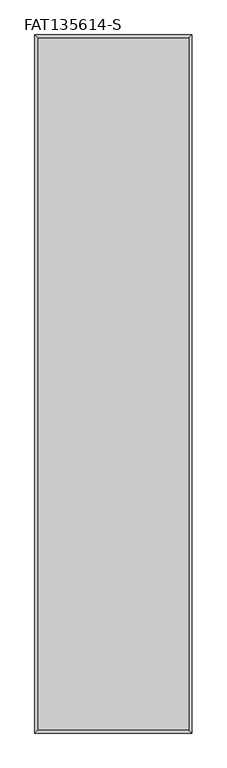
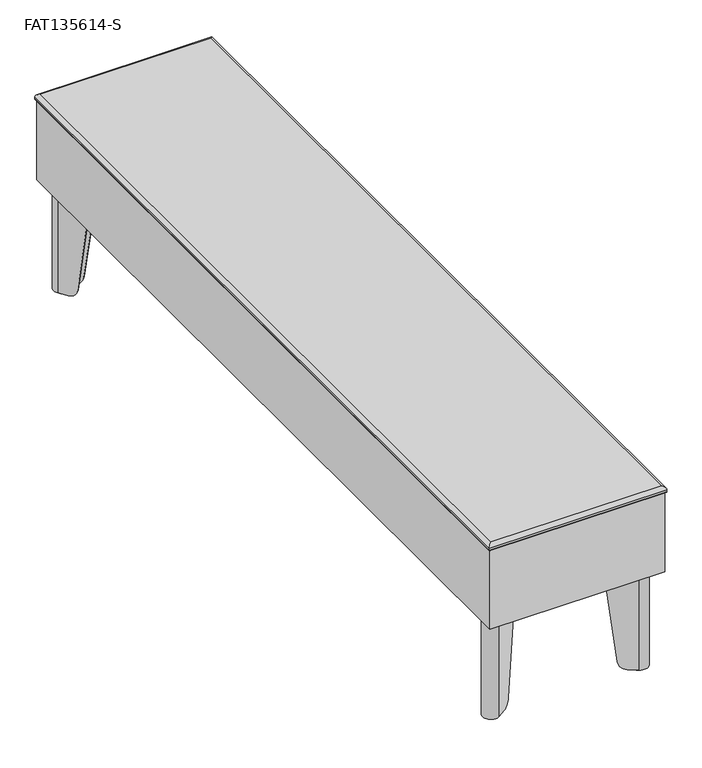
"""IFC4 building model written with IfcOpenShell, lengths in millimetres: furniture geometry, Stance_HC-Flora-Table_Straight : FAT135614-S."""

import ifcopenshell
import ifcopenshell.guid

model = None  # the IFC model being written
_history = None  # IfcOwnerHistory: only IFC2X3 demands one
_inside = {}  # id of a spatial element -> (the spatial element, [elements in it])
_under = {}  # id of a project, library or spatial element -> (it, [spatial elements below it])
_declared = {}  # id of a project -> (the project, [libraries it declares])
_typed = {}  # id of a type object -> (the type object, [elements of that type])
_made_of = {}  # id of a material, layer set ... -> (it, [elements and type objects made of it])


def new_model(schema):
    """Start an empty IFC model of exactly this schema.

    Asked for "IFC4X3", IfcOpenShell would pick the latest addendum, in which some entities
    have other attributes; the version numbers below select the first issue.
    IFC2X3 requires an IfcOwnerHistory on every rooted entity: one is made here for all.
    """
    global model, _history
    if schema == "IFC4X3":
        model = ifcopenshell.file(schema_version=(4, 3, 0, 0))
    else:
        model = ifcopenshell.file(schema=schema)
    _inside.clear()
    _under.clear()
    _declared.clear()
    _typed.clear()
    _made_of.clear()
    _history = None
    if model.schema == "IFC2X3":
        org = make("IfcOrganization", Name="unknown")
        user = make(
            "IfcPersonAndOrganization",
            ThePerson=make("IfcPerson", FamilyName="unknown"),
            TheOrganization=org,
        )
        app = make(
            "IfcApplication",
            ApplicationDeveloper=org,
            Version="unknown",
            ApplicationFullName="unknown",
            ApplicationIdentifier="unknown",
        )
        _history = make(
            "IfcOwnerHistory",
            OwningUser=user,
            OwningApplication=app,
            ChangeAction="ADDED",
            CreationDate=0,
        )
    return model


def make(cls, **values):
    """One entity of the class cls with the attributes given. An attribute that is None is left unset."""
    return model.create_entity(
        cls, **{name: value for name, value in values.items() if value is not None}
    )


def rooted(cls, **values):
    """An entity with a GlobalId (a new one), such as an element, a storey or a relation."""
    return make(cls, GlobalId=ifcopenshell.guid.new(), OwnerHistory=_history, **values)


def si_unit(unit_type, name, prefix=None):
    """IfcSIUnit, for example si_unit("LENGTHUNIT", "METRE", prefix="MILLI")."""
    return make("IfcSIUnit", UnitType=unit_type, Prefix=prefix, Name=name)


def assignment(units):
    """IfcUnitAssignment: the units of a project."""
    return None if units is None else make("IfcUnitAssignment", Units=units)


def point(xyz):
    """IfcCartesianPoint."""
    return None if xyz is None else make("IfcCartesianPoint", Coordinates=xyz)


def direction(xyz):
    """IfcDirection."""
    return None if xyz is None else make("IfcDirection", DirectionRatios=xyz)


def frame(location, z_axis=None, x_axis=None):
    """IfcAxis2Placement3D, a coordinate frame: its origin and axes. An axis left out is left unset."""
    return make(
        "IfcAxis2Placement3D",
        Location=point(location),
        Axis=direction(z_axis),
        RefDirection=direction(x_axis),
    )


def frame_2d(location, x_axis=None):
    """IfcAxis2Placement2D, a coordinate frame in the plane: its origin and x axis."""
    return make(
        "IfcAxis2Placement2D", Location=point(location), RefDirection=direction(x_axis)
    )


def origin():
    """The frame at (0, 0, 0) with its axes left unset."""
    return frame((0.0, 0.0, 0.0))


def origin_with_axes():
    """The frame at (0, 0, 0) with the z axis (0, 0, 1) and the x axis (1, 0, 0) written out."""
    return frame((0.0, 0.0, 0.0), z_axis=(0.0, 0.0, 1.0), x_axis=(1.0, 0.0, 0.0))


def place(relative_to, where):
    """IfcLocalPlacement: puts the frame where relative to a parent placement (None: the world)."""
    return make(
        "IfcLocalPlacement", PlacementRelTo=relative_to, RelativePlacement=where
    )


def context(
    kind, dimensions, precision=None, world=None, true_north=None, identifier=None
):
    """IfcGeometricRepresentationContext, for example the 3D "Model" context."""
    return make(
        "IfcGeometricRepresentationContext",
        ContextIdentifier=identifier,
        ContextType=kind,
        CoordinateSpaceDimension=dimensions,
        Precision=precision,
        WorldCoordinateSystem=world,
        TrueNorth=true_north,
    )


def project(units=None, contexts=None):
    """IfcProject with its units and contexts."""
    return rooted(
        "IfcProject",
        Name="project",
        RepresentationContexts=contexts,
        UnitsInContext=assignment(units),
    )


def spatial(cls, under=None, at=None, **own):
    """A site, building, storey or space (cls), placed at a placement, below another one or the project."""
    s = rooted(cls, ObjectPlacement=at, **own)
    if under is not None:
        _under.setdefault(under.id(), (under, []))[1].append(s)
    return s


def polyline(points):
    """IfcPolyline through the points."""
    return make("IfcPolyline", Points=[point(p) for p in points])


def circle_curve(where, radius):
    """IfcCircle in the frame where."""
    return make("IfcCircle", Position=where, Radius=radius)


def ellipse_curve(where, semi_axis1, semi_axis2):
    """IfcEllipse in the frame where."""
    return make(
        "IfcEllipse", Position=where, SemiAxis1=semi_axis1, SemiAxis2=semi_axis2
    )


def trimmed(basis, trim1, trim2, sense, master):
    """IfcTrimmedCurve: the piece of a basis curve between two trims."""
    return make(
        "IfcTrimmedCurve",
        BasisCurve=basis,
        Trim1=trim1,
        Trim2=trim2,
        SenseAgreement=sense,
        MasterRepresentation=master,
    )


def segment(curve, same_sense, transition):
    """IfcCompositeCurveSegment."""
    return make(
        "IfcCompositeCurveSegment",
        Transition=transition,
        SameSense=same_sense,
        ParentCurve=curve,
    )


def composite_curve(segments, self_intersect=None):
    """IfcCompositeCurve: segments joined end to end."""
    return make("IfcCompositeCurve", Segments=segments, SelfIntersect=self_intersect)


def outline(outer, holes=None, kind="AREA"):
    """IfcArbitraryClosedProfileDef: a profile drawn as a closed curve; with holes, ...WithVoids."""
    if holes is None:
        return make("IfcArbitraryClosedProfileDef", ProfileType=kind, OuterCurve=outer)
    return make(
        "IfcArbitraryProfileDefWithVoids",
        ProfileType=kind,
        OuterCurve=outer,
        InnerCurves=holes,
    )


def extrude(swept, where, along, depth):
    """IfcExtrudedAreaSolid: the profile swept, set in the frame where, extruded along a direction by depth."""
    return make(
        "IfcExtrudedAreaSolid",
        SweptArea=swept,
        Position=where,
        ExtrudedDirection=direction(along),
        Depth=depth,
    )


def shape(context_of_items, identifier, shape_type, items):
    """IfcShapeRepresentation: the items that make up one representation, for example the "Body"."""
    return make(
        "IfcShapeRepresentation",
        ContextOfItems=context_of_items,
        RepresentationIdentifier=identifier,
        RepresentationType=shape_type,
        Items=items,
    )


def source(mapping_origin, context_of_items, identifier, shape_type, items):
    """IfcRepresentationMap: a shape defined once, which mapped items show again and again."""
    return make(
        "IfcRepresentationMap",
        MappingOrigin=mapping_origin,
        MappedRepresentation=shape(context_of_items, identifier, shape_type, items),
    )


def transform(
    local_origin,
    x_axis=None,
    y_axis=None,
    z_axis=None,
    scale=None,
    scale2=None,
    scale3=None,
    uniform=True,
):
    """IfcCartesianTransformationOperator3D, or its non-uniform kind. x_axis, y_axis, z_axis: its Axis1, 2, 3."""
    if uniform:
        return make(
            "IfcCartesianTransformationOperator3D",
            Axis1=direction(x_axis),
            Axis2=direction(y_axis),
            LocalOrigin=point(local_origin),
            Scale=scale,
            Axis3=direction(z_axis),
        )
    return make(
        "IfcCartesianTransformationOperator3DnonUniform",
        Axis1=direction(x_axis),
        Axis2=direction(y_axis),
        LocalOrigin=point(local_origin),
        Scale=scale,
        Axis3=direction(z_axis),
        Scale2=scale2,
        Scale3=scale3,
    )


def mapped(mapping_source, mapping_target):
    """IfcMappedItem: shows the shape of a source again, moved by a transform."""
    return make(
        "IfcMappedItem", MappingSource=mapping_source, MappingTarget=mapping_target
    )


def made_of(thing, what):
    """Note that an element or type object is made of a material, layer set ...; save() writes the relation."""
    if what is not None:
        _made_of.setdefault(what.id(), (what, []))[1].append(thing)
    return thing


def element(
    cls,
    number,
    at=None,
    inside=None,
    cuts=None,
    type_object=None,
    material=None,
    context=None,
    identifier="Body",
    shape_type=None,
    held_by="IfcProductDefinitionShape",
    body=None,
    shapes=None,
    **own,
):
    """One element of the class cls, such as IfcWall. Its Tag is "e" and its number.

    at: its placement. inside: the storey or other place that contains it. cuts: it is an
    opening in that element (IfcRelVoidsElement). A single representation is given by context,
    identifier, shape_type and body (its items); several are given by shapes. held_by: the class
    of the entity that holds the representations. save() writes the other relations.
    """
    e = rooted(cls, Tag="e%d" % number, ObjectPlacement=at, **own)
    if body is not None:
        shapes = [shape(context, identifier, shape_type, body)]
    if shapes is not None:
        e.Representation = make(held_by, Representations=shapes)
    if inside is not None:
        _inside.setdefault(inside.id(), (inside, []))[1].append(e)
    if cuts is not None:
        rooted(
            "IfcRelVoidsElement", RelatingBuildingElement=cuts, RelatedOpeningElement=e
        )
    if type_object is not None:
        _typed.setdefault(type_object.id(), (type_object, []))[1].append(e)
    return made_of(e, material)


def aggregate(whole, parts):
    """IfcRelAggregates: a whole, such as a stair, and the parts it consists of."""
    return rooted("IfcRelAggregates", RelatingObject=whole, RelatedObjects=parts)


def save(model, path):
    """Write the relations noted so far, then the file.

    IfcRelAggregates (storeys below a building ...), IfcRelContainedInSpatialStructure (elements
    in a storey), IfcRelDefinesByType, IfcRelAssociatesMaterial and IfcRelDeclares: one each for
    every whole, place, type object, material and project.
    """
    for whole, parts in _under.values():
        aggregate(whole, parts)
    for where, things in _inside.values():
        rooted(
            "IfcRelContainedInSpatialStructure",
            RelatedElements=things,
            RelatingStructure=where,
        )
    for kind, things in _typed.values():
        rooted("IfcRelDefinesByType", RelatedObjects=things, RelatingType=kind)
    for what, things in _made_of.values():
        rooted("IfcRelAssociatesMaterial", RelatedObjects=things, RelatingMaterial=what)
    for by, libraries in _declared.values():
        rooted("IfcRelDeclares", RelatingContext=by, RelatedDefinitions=libraries)
    model.write(path)


def plane_surface(at):
    """IfcPlane: the flat surface through the origin of the frame at, square to its z axis."""
    return make("IfcPlane", Position=at)


def cylinder_surface(at, radius):
    """IfcCylindricalSurface: all points at the distance radius from the z axis of the frame at."""
    return make("IfcCylindricalSurface", Position=at, Radius=radius)


def revolved_surface(curve, axis_point, axis_direction):
    """IfcSurfaceOfRevolution: the curve turned about the line through axis_point along axis_direction."""
    return make(
        "IfcSurfaceOfRevolution",
        SweptCurve=make("IfcArbitraryOpenProfileDef", ProfileType="CURVE", Curve=curve),
        AxisPosition=make("IfcAxis1Placement", Location=point(axis_point), Axis=direction(axis_direction)),
    )


def advanced_brep(points, edges, surfaces, faces):
    """IfcAdvancedBrep: a solid bounded by faces that lie on surfaces and meet in shared edges.

    An edge is (start, end): straight between two places in points (the first is 0);
    or (start, end, curve); or (start, end, curve, False) where it runs against its curve.
    A face is (place in surfaces, loops), or (place, loops, False) where it looks against
    its surface's normal. A loop lists edges by number (the first is 1), with a minus sign
    where the edge is run from its end to its start. The first loop is the outer one.
    """
    corners = [point(p) for p in points]
    vertices = [make("IfcVertexPoint", VertexGeometry=c) for c in corners]
    made = []
    for start, end, *more in edges:
        made.append(
            make(
                "IfcEdgeCurve",
                EdgeStart=vertices[start],
                EdgeEnd=vertices[end],
                EdgeGeometry=more[0] if more else make("IfcPolyline", Points=[corners[start], corners[end]]),
                SameSense=more[1] if len(more) > 1 else True,
            )
        )
    hull = []
    for where, loops, *sense in faces:
        bounds = []
        for j, loop in enumerate(loops):
            ring = [make("IfcOrientedEdge", EdgeElement=made[abs(k) - 1], Orientation=k > 0) for k in loop]
            bounds.append(
                make(
                    "IfcFaceOuterBound" if j == 0 else "IfcFaceBound",
                    Bound=make("IfcEdgeLoop", EdgeList=ring),
                    Orientation=True,
                )
            )
        hull.append(make("IfcAdvancedFace", Bounds=bounds, FaceSurface=surfaces[where], SameSense=sense[0] if sense else True))
    return make("IfcAdvancedBrep", Outer=make("IfcClosedShell", CfsFaces=hull))


def fat135614_s_2103d5af(model_context):
    return source(origin(), model_context, "Body", "SolidModel", [
        advanced_brep(
        [(274.3401042, -102.8613619, 193.6877233), (306.2642107, -57.26919, 193.6877233), (285.6391871, -36.6441664, 193.6877233), (240.0470178, -68.568271, 193.6877233), (241.8906556, -71.2012484, 193.6877233), (287.4828248, -39.2771437, 193.6877233), (303.6312333, -55.4255523, 193.6877233), (271.7071268, -101.0177242, 193.6877233), (274.3401042, -102.8613619, 189.1419595), (303.6312333, -55.4255523, 3.1876992), (293.5105238, -69.8793673, 3.1876992), (284.3334277, -82.9855678, 17.1280233), (287.4828248, -39.2771437, 3.1876992), (259.9228092, -58.5749494, 17.1280233), (273.0290098, -49.3978533, 3.1876992), (240.0470178, -68.568271, 189.1419334), (285.6391871, -36.6441664, 3.1876992), (270.7211121, -47.0899556, 3.1876992), (257.6149115, -56.2670517, 17.1280233), (306.2642107, -57.26919, 3.1876992), (286.6413254, -85.2934656, 17.1280233), (295.8184215, -72.187265, 3.1876992)],
        [
            (0, 1),
            (1, 2, circle_curve(frame((294.1333442, -48.7750329, 193.6877233), z_axis=(0.0, 0.0, 1.0), x_axis=(-1.0, 0.0, 0.0)), 14.8090724)),
            (2, 3),
            (3, 4),
            (4, 5),
            (5, 6, circle_curve(frame((294.1333442, -48.7750329, 193.6877233), z_axis=(0.0, 0.0, -1.0), x_axis=(-1.0, 0.0, 0.0)), 11.5947965)),
            (6, 7),
            (7, 0),
            (7, 8),
            (8, 0),
            (6, 9),
            (9, 10),
            (10, 11, ellipse_curve(frame((293.5105238, -69.8793673, 19.0626992), z_axis=(-0.8191509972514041, 0.5735779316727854, 0.0), x_axis=(-0.5735779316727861, -0.8191509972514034, 0.0)), 16.1198923, 15.875)),
            (11, 7),
            (5, 12),
            (12, 9, circle_curve(frame((294.1333442, -48.7750329, 3.1876992), z_axis=(0.0, 0.0, -1.0), x_axis=(-1.0, 0.0, 0.0)), 11.5947965)),
            (4, 13),
            (13, 14, ellipse_curve(frame((273.0290098, -49.3978533, 19.0626992), z_axis=(0.5735779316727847, -0.8191509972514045, 0.0), x_axis=(0.8191509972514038, 0.5735779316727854, 0.0)), 16.1198923, 15.875)),
            (14, 12),
            (3, 15),
            (15, 4),
            (2, 16),
            (16, 17),
            (17, 18, ellipse_curve(frame((270.7211121, -47.0899556, 19.0626992), z_axis=(-0.5735779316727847, 0.8191509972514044, 0.0), x_axis=(0.8191509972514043, 0.573577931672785, 0.0)), 16.1198923, 15.875)),
            (18, 15),
            (1, 19),
            (19, 16, circle_curve(frame((294.1333442, -48.7750329, 3.1876992), z_axis=(0.0, 0.0, 1.0), x_axis=(-1.0, 0.0, 0.0)), 14.8090724)),
            (8, 20),
            (20, 21, ellipse_curve(frame((295.8184215, -72.187265, 19.0626992), z_axis=(0.8191509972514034, -0.5735779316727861, 0.0), x_axis=(-0.5735779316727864, -0.8191509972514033, 0.0)), 16.1198923, 15.875)),
            (21, 19),
            (18, 13),
            (11, 20),
            (21, 10),
            (14, 17),
        ],
        [
            plane_surface(frame((271.7071268, -101.0177242, 193.6877233), z_axis=(0.0, 0.0, 1.0000000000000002), x_axis=(-0.8191509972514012, 0.5735779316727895, 0.0))),
            plane_surface(frame((274.3401042, -102.8613619, 193.6877233), z_axis=(-0.5735779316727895, -0.8191509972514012, 0.0), x_axis=(0.0, 0.0, -1.0))),
            plane_surface(frame((271.7071268, -101.0177242, 193.6877233), z_axis=(-0.8191509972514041, 0.5735779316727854, 0.0), x_axis=(0.0, 0.0, -1.0))),
            revolved_surface(polyline([(282.53854770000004, -48.7750329, 3.1876992), (282.53854770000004, -48.7750329, 193.6877233)]), (294.1333442, -48.7750329, 0.0), (0.0, 0.0, -1.0)),
            plane_surface(frame((287.4828248, -39.2771437, 193.6877233), z_axis=(0.5735779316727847, -0.8191509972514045, 0.0), x_axis=(0.0, 0.0, -1.0))),
            plane_surface(frame((241.8906556, -71.2012484, 193.6877233), z_axis=(-0.8191509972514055, -0.5735779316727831, 0.0), x_axis=(0.0, 0.0, -1.0))),
            plane_surface(frame((240.0470178, -68.568271, 193.6877233), z_axis=(-0.5735779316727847, 0.8191509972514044, 0.0), x_axis=(0.0, 0.0, -1.0))),
            cylinder_surface(frame((294.1333442, -48.7750329, 0.0), z_axis=(0.0, 0.0, 1.0), x_axis=(-1.0, 0.0, 0.0)), 14.8090724),
            plane_surface(frame((306.2642107, -57.26919, 193.6877233), z_axis=(0.8191509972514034, -0.5735779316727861, 0.0), x_axis=(0.0, 0.0, -1.0))),
            plane_surface(frame((251.7311084, -50.3832485, 17.1280233), z_axis=(-0.7018361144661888, -0.7018361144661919, -0.12186934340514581), x_axis=(0.7071067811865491, -0.707106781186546, 0.0))),
            plane_surface(frame((284.2214639, -17.8928931, 3.1876992), z_axis=(0.0, 0.0, -1.0), x_axis=(0.707106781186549, -0.707106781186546, 0.0))),
            cylinder_surface(frame((303.6583998, -80.0272433, 19.0626992), z_axis=(0.7071067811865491, -0.707106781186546, 0.0), x_axis=(-0.707106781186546, -0.7071067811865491, 0.0)), 15.875),
        ],
        [
            (0, [[1, 2, 3, 4, 5, 6, 7, 8]]),
            (1, [[9, 10, -8]]),
            (2, [[11, 12, 13, 14, -7]]),
            (3, [[15, 16, -11, -6]]),
            (4, [[17, 18, 19, -15, -5]]),
            (5, [[20, 21, -4]]),
            (6, [[22, 23, 24, 25, -20, -3]]),
            (7, [[26, 27, -22, -2]]),
            (8, [[-10, 28, 29, 30, -26, -1]]),
            (9, [[-17, -21, -25, 31]]),
            (9, [[-28, -9, -14, 32]]),
            (10, [[-23, -27, -30, 33, -12, -16, -19, 34]]),
            (11, [[-13, -33, -29, -32]]),
            (11, [[-24, -34, -18, -31]]),
        ],
    ),
        extrude(outline(composite_curve([segment(trimmed(circle_curve(frame_2d((292.1, -50.8)), 11.1125), [point((303.2125, -50.8))], [point((280.9875, -50.8))], False, "CARTESIAN"), True, "CONTINUOUS"), segment(trimmed(circle_curve(frame_2d((292.1, -50.8)), 11.1125), [point((280.9875, -50.8))], [point((303.2125, -50.8))], False, "CARTESIAN"), True, "CONTINUOUS")], self_intersect=False)), origin_with_axes(), (0.0, 0.0, 1.0), 3.175),
        extrude(outline(composite_curve([segment(trimmed(circle_curve(frame_2d((295.4524523, -47.4559239)), 15.8749964), [point((294.3450687, -31.6195983))], [point((311.288778, -48.5633073))], False, "CARTESIAN"), True, "CONTINUOUS"), segment(polyline([(311.288778, -48.5633073), (304.2918062, -148.6247029), (274.4414324, -178.4750713), (190.4983323, -152.4100523), (164.4332978, -68.4669439), (194.2836699, -38.6165718), (294.3450687, -31.6195983)]), True, "CONTINUOUS")], self_intersect=False)), frame((0.0, 0.0, 193.6877233), z_axis=(0.0, 0.0, 1.0), x_axis=(1.0, 0.0, 0.0)), (0.0, 0.0, 1.0), 4.7751809),
        advanced_brep(
        [(274.3401042, -1344.9386381, 193.6877233), (271.7071268, -1346.7822758, 193.6877233), (303.6312333, -1392.3744477, 193.6877233), (287.4828248, -1408.5228563, 193.6877233), (241.8906556, -1376.5987516, 193.6877233), (240.0470178, -1379.231729, 193.6877233), (285.6391871, -1411.1558336, 193.6877233), (306.2642107, -1390.53081, 193.6877233), (274.3401042, -1344.9386381, 189.1419595), (284.3334277, -1364.8144322, 17.1280233), (293.5105238, -1377.9206327, 3.1876992), (303.6312333, -1392.3744477, 3.1876992), (287.4828248, -1408.5228563, 3.1876992), (273.0290098, -1398.4021467, 3.1876992), (259.9228092, -1389.2250506, 17.1280233), (240.0470178, -1379.231729, 189.1419334), (257.6149115, -1391.5329483, 17.1280233), (270.7211121, -1400.7100444, 3.1876992), (285.6391871, -1411.1558336, 3.1876992), (306.2642107, -1390.53081, 3.1876992), (295.8184215, -1375.612735, 3.1876992), (286.6413254, -1362.5065344, 17.1280233)],
        [
            (0, 1),
            (1, 2),
            (2, 3, circle_curve(frame((294.1333442, -1399.0249671, 193.6877233), z_axis=(0.0, 0.0, -1.0), x_axis=(-1.0, 0.0, 0.0)), 11.5947965)),
            (3, 4),
            (4, 5),
            (5, 6),
            (6, 7, circle_curve(frame((294.1333442, -1399.0249671, 193.6877233), z_axis=(0.0, 0.0, 1.0), x_axis=(-1.0, 0.0, 0.0)), 14.8090724)),
            (7, 0),
            (0, 8),
            (8, 1),
            (1, 9),
            (9, 10, ellipse_curve(frame((293.5105238, -1377.9206327, 19.0626992), z_axis=(-0.8191509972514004, -0.5735779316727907, 0.0), x_axis=(-0.5735779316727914, 0.8191509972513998, 0.0)), 16.1198923, 15.875)),
            (10, 11),
            (11, 2),
            (11, 12, circle_curve(frame((294.1333442, -1399.0249671, 3.1876992), z_axis=(0.0, 0.0, -1.0), x_axis=(-1.0, 0.0, 0.0)), 11.5947965)),
            (12, 3),
            (12, 13),
            (13, 14, ellipse_curve(frame((273.0290098, -1398.4021467, 19.0626992), z_axis=(0.5735779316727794, 0.8191509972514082, 0.0), x_axis=(0.8191509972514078, -0.5735779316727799, 0.0)), 16.1198923, 15.875)),
            (14, 4),
            (4, 15),
            (15, 5),
            (15, 16),
            (16, 17, ellipse_curve(frame((270.7211121, -1400.7100444, 19.0626992), z_axis=(-0.5735779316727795, -0.8191509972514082, 0.0), x_axis=(0.8191509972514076, -0.5735779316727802, 0.0)), 16.1198923, 15.875)),
            (17, 18),
            (18, 6),
            (18, 19, circle_curve(frame((294.1333442, -1399.0249671, 3.1876992), z_axis=(0.0, 0.0, 1.0), x_axis=(-1.0, 0.0, 0.0)), 14.8090724)),
            (19, 7),
            (19, 20),
            (20, 21, ellipse_curve(frame((295.8184215, -1375.612735, 19.0626992), z_axis=(0.8191509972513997, 0.5735779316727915, 0.0), x_axis=(-0.573577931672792, 0.8191509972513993, 0.0)), 16.1198923, 15.875)),
            (21, 8),
            (14, 16),
            (21, 9),
            (17, 13),
            (10, 20),
        ],
        [
            plane_surface(frame((271.7071268, -1346.7822758, 193.6877233), z_axis=(0.0, 0.0, 0.9999999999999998), x_axis=(-0.8191509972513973, -0.5735779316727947, 0.0))),
            plane_surface(frame((274.3401042, -1344.9386381, 193.6877233), z_axis=(-0.5735779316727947, 0.8191509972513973, 0.0), x_axis=(0.0, 0.0, -1.0))),
            plane_surface(frame((271.7071268, -1346.7822758, 193.6877233), z_axis=(-0.8191509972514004, -0.5735779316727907, 0.0), x_axis=(0.0, 0.0, -1.0))),
            revolved_surface(polyline([(282.53854770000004, -1399.0249671, 3.1876992), (282.53854770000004, -1399.0249671, 193.6877233)]), (294.1333442, -1399.0249671, 0.0), (0.0, 0.0, -1.0)),
            plane_surface(frame((287.4828248, -1408.5228563, 193.6877233), z_axis=(0.5735779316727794, 0.8191509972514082, 0.0), x_axis=(0.0, 0.0, -1.0))),
            plane_surface(frame((241.8906556, -1376.5987516, 193.6877233), z_axis=(-0.8191509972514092, 0.5735779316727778, 0.0), x_axis=(0.0, 0.0, -1.0))),
            plane_surface(frame((240.0470178, -1379.231729, 193.6877233), z_axis=(-0.5735779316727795, -0.8191509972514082, 0.0), x_axis=(0.0, 0.0, -1.0))),
            cylinder_surface(frame((294.1333442, -1399.0249671, 0.0), z_axis=(0.0, 0.0, 1.0), x_axis=(-1.0, 0.0, 0.0)), 14.8090724),
            plane_surface(frame((306.2642107, -1390.53081, 193.6877233), z_axis=(0.8191509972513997, 0.5735779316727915, 0.0), x_axis=(0.0, 0.0, -1.0))),
            plane_surface(frame((251.7311084, -1397.4167515, 17.1280233), z_axis=(-0.7018361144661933, 0.7018361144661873, -0.12186934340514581), x_axis=(0.7071067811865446, 0.7071067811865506, 0.0))),
            plane_surface(frame((284.2214639, -1429.9071069, 3.1876992), z_axis=(0.0, 0.0, -1.0), x_axis=(0.7071067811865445, 0.7071067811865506, 0.0))),
            cylinder_surface(frame((303.6583998, -1367.7727567, 19.0626992), z_axis=(0.7071067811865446, 0.7071067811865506, 0.0), x_axis=(-0.7071067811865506, 0.7071067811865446, 0.0)), 15.875),
        ],
        [
            (0, [[1, 2, 3, 4, 5, 6, 7, 8]]),
            (1, [[-1, 9, 10]]),
            (2, [[-2, 11, 12, 13, 14]]),
            (3, [[-3, -14, 15, 16]]),
            (4, [[-4, -16, 17, 18, 19]]),
            (5, [[-5, 20, 21]]),
            (6, [[-6, -21, 22, 23, 24, 25]]),
            (7, [[-7, -25, 26, 27]]),
            (8, [[-8, -27, 28, 29, 30, -9]]),
            (9, [[31, -22, -20, -19]]),
            (9, [[32, -11, -10, -30]]),
            (10, [[33, -17, -15, -13, 34, -28, -26, -24]]),
            (11, [[-31, -18, -33, -23]]),
            (11, [[-32, -29, -34, -12]]),
        ],
    ),
        extrude(outline(composite_curve([segment(trimmed(circle_curve(frame_2d((292.1, -1397.0)), 11.1125), [point((303.2125, -1397.0))], [point((280.9875, -1397.0))], False, "CARTESIAN"), True, "CONTINUOUS"), segment(trimmed(circle_curve(frame_2d((292.1, -1397.0)), 11.1125), [point((280.9875, -1397.0))], [point((303.2125, -1397.0))], False, "CARTESIAN"), True, "CONTINUOUS")], self_intersect=False)), origin_with_axes(), (0.0, 0.0, 1.0), 3.175),
        extrude(outline(composite_curve([segment(polyline([(294.3450687, -1416.1804017), (194.2836699, -1409.1834282), (164.4332978, -1379.3330561), (190.4983323, -1295.3899477), (274.4414324, -1269.3249287), (304.2918062, -1299.1752971), (311.288778, -1399.2366927)]), True, "CONTINUOUS"), segment(trimmed(circle_curve(frame_2d((295.4524523, -1400.3440761)), 15.8749964), [point((311.288778, -1399.2366927))], [point((294.3450687, -1416.1804017))], False, "CARTESIAN"), True, "CONTINUOUS")], self_intersect=False)), frame((0.0, 0.0, 193.6877233), z_axis=(0.0, 0.0, 1.0), x_axis=(1.0, 0.0, 0.0)), (0.0, 0.0, 1.0), 4.7751809),
        advanced_brep(
        [(43.1598958, -1344.9386381, 193.6877233), (11.2357893, -1390.53081, 193.6877233), (31.8608129, -1411.1558336, 193.6877233), (77.4529822, -1379.231729, 193.6877233), (75.6093444, -1376.5987516, 193.6877233), (30.0171752, -1408.5228563, 193.6877233), (13.8687667, -1392.3744477, 193.6877233), (45.7928732, -1346.7822758, 193.6877233), (43.1598958, -1344.9386381, 189.1419595), (13.8687667, -1392.3744477, 3.1876992), (23.9894762, -1377.9206327, 3.1876992), (33.1665723, -1364.8144322, 17.1280233), (30.0171752, -1408.5228563, 3.1876992), (57.5771908, -1389.2250506, 17.1280233), (44.4709902, -1398.4021467, 3.1876992), (77.4529822, -1379.231729, 189.1419334), (31.8608129, -1411.1558336, 3.1876992), (46.7788879, -1400.7100444, 3.1876992), (59.8850885, -1391.5329483, 17.1280233), (11.2357893, -1390.53081, 3.1876992), (30.8586746, -1362.5065344, 17.1280233), (21.6815785, -1375.612735, 3.1876992)],
        [
            (0, 1),
            (1, 2, circle_curve(frame((23.3666558, -1399.0249671, 193.6877233), z_axis=(0.0, 0.0, 1.0), x_axis=(1.0, 0.0, 0.0)), 14.8090724)),
            (2, 3),
            (3, 4),
            (4, 5),
            (5, 6, circle_curve(frame((23.3666558, -1399.0249671, 193.6877233), z_axis=(0.0, 0.0, -1.0), x_axis=(1.0, 0.0, 0.0)), 11.5947965)),
            (6, 7),
            (7, 0),
            (7, 8),
            (8, 0),
            (6, 9),
            (9, 10),
            (10, 11, ellipse_curve(frame((23.9894762, -1377.9206327, 19.0626992), z_axis=(0.8191509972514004, -0.5735779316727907, 0.0), x_axis=(0.5735779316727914, 0.8191509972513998, 0.0)), 16.1198923, 15.875)),
            (11, 7),
            (5, 12),
            (12, 9, circle_curve(frame((23.3666558, -1399.0249671, 3.1876992), z_axis=(0.0, 0.0, -1.0), x_axis=(1.0, 0.0, 0.0)), 11.5947965)),
            (4, 13),
            (13, 14, ellipse_curve(frame((44.4709902, -1398.4021467, 19.0626992), z_axis=(-0.5735779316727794, 0.8191509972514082, 0.0), x_axis=(-0.8191509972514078, -0.5735779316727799, 0.0)), 16.1198923, 15.875)),
            (14, 12),
            (3, 15),
            (15, 4),
            (2, 16),
            (16, 17),
            (17, 18, ellipse_curve(frame((46.7788879, -1400.7100444, 19.0626992), z_axis=(0.5735779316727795, -0.8191509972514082, 0.0), x_axis=(-0.8191509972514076, -0.5735779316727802, 0.0)), 16.1198923, 15.875)),
            (18, 15),
            (1, 19),
            (19, 16, circle_curve(frame((23.3666558, -1399.0249671, 3.1876992), z_axis=(0.0, 0.0, 1.0), x_axis=(1.0, 0.0, 0.0)), 14.8090724)),
            (8, 20),
            (20, 21, ellipse_curve(frame((21.6815785, -1375.612735, 19.0626992), z_axis=(-0.8191509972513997, 0.5735779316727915, 0.0), x_axis=(0.573577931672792, 0.8191509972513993, 0.0)), 16.1198923, 15.875)),
            (21, 19),
            (18, 13),
            (11, 20),
            (21, 10),
            (14, 17),
        ],
        [
            plane_surface(frame((45.7928732, -1346.7822758, 193.6877233), z_axis=(0.0, 0.0, 0.9999999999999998), x_axis=(0.8191509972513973, -0.5735779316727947, 0.0))),
            plane_surface(frame((43.1598958, -1344.9386381, 193.6877233), z_axis=(0.5735779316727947, 0.8191509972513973, 0.0), x_axis=(0.0, 0.0, -1.0))),
            plane_surface(frame((45.7928732, -1346.7822758, 193.6877233), z_axis=(0.8191509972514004, -0.5735779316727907, 0.0), x_axis=(0.0, 0.0, -1.0))),
            revolved_surface(polyline([(34.9614523, -1399.0249671, 3.1876992), (34.9614523, -1399.0249671, 193.6877233)]), (23.3666558, -1399.0249671, 0.0), (0.0, 0.0, -1.0)),
            plane_surface(frame((30.0171752, -1408.5228563, 193.6877233), z_axis=(-0.5735779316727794, 0.8191509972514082, 0.0), x_axis=(0.0, 0.0, -1.0))),
            plane_surface(frame((75.6093444, -1376.5987516, 193.6877233), z_axis=(0.8191509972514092, 0.5735779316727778, 0.0), x_axis=(0.0, 0.0, -1.0))),
            plane_surface(frame((77.4529822, -1379.231729, 193.6877233), z_axis=(0.5735779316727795, -0.8191509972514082, 0.0), x_axis=(0.0, 0.0, -1.0))),
            cylinder_surface(frame((23.3666558, -1399.0249671, 0.0), z_axis=(0.0, 0.0, 1.0), x_axis=(1.0, 0.0, 0.0)), 14.8090724),
            plane_surface(frame((11.2357893, -1390.53081, 193.6877233), z_axis=(-0.8191509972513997, 0.5735779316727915, 0.0), x_axis=(0.0, 0.0, -1.0))),
            plane_surface(frame((65.7688916, -1397.4167515, 17.1280233), z_axis=(0.7018361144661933, 0.7018361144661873, -0.12186934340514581), x_axis=(-0.7071067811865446, 0.7071067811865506, 0.0))),
            plane_surface(frame((33.2785361, -1429.9071069, 3.1876992), z_axis=(0.0, 0.0, -1.0), x_axis=(-0.7071067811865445, 0.7071067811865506, 0.0))),
            cylinder_surface(frame((13.8416002, -1367.7727567, 19.0626992), z_axis=(-0.7071067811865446, 0.7071067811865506, 0.0), x_axis=(0.7071067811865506, 0.7071067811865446, 0.0)), 15.875),
        ],
        [
            (0, [[1, 2, 3, 4, 5, 6, 7, 8]]),
            (1, [[9, 10, -8]]),
            (2, [[11, 12, 13, 14, -7]]),
            (3, [[15, 16, -11, -6]]),
            (4, [[17, 18, 19, -15, -5]]),
            (5, [[20, 21, -4]]),
            (6, [[22, 23, 24, 25, -20, -3]]),
            (7, [[26, 27, -22, -2]]),
            (8, [[-10, 28, 29, 30, -26, -1]]),
            (9, [[-17, -21, -25, 31]]),
            (9, [[-28, -9, -14, 32]]),
            (10, [[-23, -27, -30, 33, -12, -16, -19, 34]]),
            (11, [[-13, -33, -29, -32]]),
            (11, [[-24, -34, -18, -31]]),
        ],
    ),
        extrude(outline(composite_curve([segment(trimmed(circle_curve(frame_2d((25.4, -1397.0)), 11.1125), [point((14.2875, -1397.0))], [point((36.5125, -1397.0))], False, "CARTESIAN"), True, "CONTINUOUS"), segment(trimmed(circle_curve(frame_2d((25.4, -1397.0)), 11.1125), [point((36.5125, -1397.0))], [point((14.2875, -1397.0))], False, "CARTESIAN"), True, "CONTINUOUS")], self_intersect=False)), origin_with_axes(), (0.0, 0.0, 1.0), 3.175),
        extrude(outline(composite_curve([segment(trimmed(circle_curve(frame_2d((22.0475477, -1400.3440761)), 15.8749964), [point((23.1549313, -1416.1804017))], [point((6.211222, -1399.2366927))], False, "CARTESIAN"), True, "CONTINUOUS"), segment(polyline([(6.211222, -1399.2366927), (13.2081938, -1299.1752971), (43.0585676, -1269.3249287), (127.0016677, -1295.3899477), (153.0667022, -1379.3330561), (123.2163301, -1409.1834282), (23.1549313, -1416.1804017)]), True, "CONTINUOUS")], self_intersect=False)), frame((0.0, 0.0, 193.6877233), z_axis=(0.0, 0.0, 1.0), x_axis=(1.0, 0.0, 0.0)), (0.0, 0.0, 1.0), 4.7751809),
        advanced_brep(
        [(43.1598958, -102.8613619, 193.6877233), (45.7928732, -101.0177242, 193.6877233), (13.8687667, -55.4255523, 193.6877233), (30.0171752, -39.2771437, 193.6877233), (75.6093444, -71.2012484, 193.6877233), (77.4529822, -68.568271, 193.6877233), (31.8608129, -36.6441664, 193.6877233), (11.2357893, -57.26919, 193.6877233), (43.1598958, -102.8613619, 189.1419595), (33.1665723, -82.9855678, 17.1280233), (23.9894762, -69.8793673, 3.1876992), (13.8687667, -55.4255523, 3.1876992), (30.0171752, -39.2771437, 3.1876992), (44.4709902, -49.3978533, 3.1876992), (57.5771908, -58.5749494, 17.1280233), (77.4529822, -68.568271, 189.1419334), (59.8850885, -56.2670517, 17.1280233), (46.7788879, -47.0899556, 3.1876992), (31.8608129, -36.6441664, 3.1876992), (11.2357893, -57.26919, 3.1876992), (21.6815785, -72.187265, 3.1876992), (30.8586746, -85.2934656, 17.1280233)],
        [
            (0, 1),
            (1, 2),
            (2, 3, circle_curve(frame((23.3666558, -48.7750329, 193.6877233), z_axis=(0.0, 0.0, -1.0), x_axis=(1.0, 0.0, 0.0)), 11.5947965)),
            (3, 4),
            (4, 5),
            (5, 6),
            (6, 7, circle_curve(frame((23.3666558, -48.7750329, 193.6877233), z_axis=(0.0, 0.0, 1.0), x_axis=(1.0, 0.0, 0.0)), 14.8090724)),
            (7, 0),
            (0, 8),
            (8, 1),
            (1, 9),
            (9, 10, ellipse_curve(frame((23.9894762, -69.8793673, 19.0626992), z_axis=(0.8191509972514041, 0.5735779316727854, 0.0), x_axis=(0.5735779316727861, -0.8191509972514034, 0.0)), 16.1198923, 15.875)),
            (10, 11),
            (11, 2),
            (11, 12, circle_curve(frame((23.3666558, -48.7750329, 3.1876992), z_axis=(0.0, 0.0, -1.0), x_axis=(1.0, 0.0, 0.0)), 11.5947965)),
            (12, 3),
            (12, 13),
            (13, 14, ellipse_curve(frame((44.4709902, -49.3978533, 19.0626992), z_axis=(-0.5735779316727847, -0.8191509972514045, 0.0), x_axis=(-0.8191509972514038, 0.5735779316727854, 0.0)), 16.1198923, 15.875)),
            (14, 4),
            (4, 15),
            (15, 5),
            (15, 16),
            (16, 17, ellipse_curve(frame((46.7788879, -47.0899556, 19.0626992), z_axis=(0.5735779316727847, 0.8191509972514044, 0.0), x_axis=(-0.8191509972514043, 0.573577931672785, 0.0)), 16.1198923, 15.875)),
            (17, 18),
            (18, 6),
            (18, 19, circle_curve(frame((23.3666558, -48.7750329, 3.1876992), z_axis=(0.0, 0.0, 1.0), x_axis=(1.0, 0.0, 0.0)), 14.8090724)),
            (19, 7),
            (19, 20),
            (20, 21, ellipse_curve(frame((21.6815785, -72.187265, 19.0626992), z_axis=(-0.8191509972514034, -0.5735779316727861, 0.0), x_axis=(0.5735779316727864, -0.8191509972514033, 0.0)), 16.1198923, 15.875)),
            (21, 8),
            (14, 16),
            (21, 9),
            (17, 13),
            (10, 20),
        ],
        [
            plane_surface(frame((45.7928732, -101.0177242, 193.6877233), z_axis=(0.0, 0.0, 1.0000000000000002), x_axis=(0.8191509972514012, 0.5735779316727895, 0.0))),
            plane_surface(frame((43.1598958, -102.8613619, 193.6877233), z_axis=(0.5735779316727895, -0.8191509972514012, 0.0), x_axis=(0.0, 0.0, -1.0))),
            plane_surface(frame((45.7928732, -101.0177242, 193.6877233), z_axis=(0.8191509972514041, 0.5735779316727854, 0.0), x_axis=(0.0, 0.0, -1.0))),
            revolved_surface(polyline([(34.9614523, -48.7750329, 3.1876992), (34.9614523, -48.7750329, 193.6877233)]), (23.3666558, -48.7750329, 0.0), (0.0, 0.0, -1.0)),
            plane_surface(frame((30.0171752, -39.2771437, 193.6877233), z_axis=(-0.5735779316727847, -0.8191509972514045, 0.0), x_axis=(0.0, 0.0, -1.0))),
            plane_surface(frame((75.6093444, -71.2012484, 193.6877233), z_axis=(0.8191509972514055, -0.5735779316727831, 0.0), x_axis=(0.0, 0.0, -1.0))),
            plane_surface(frame((77.4529822, -68.568271, 193.6877233), z_axis=(0.5735779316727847, 0.8191509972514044, 0.0), x_axis=(0.0, 0.0, -1.0))),
            cylinder_surface(frame((23.3666558, -48.7750329, 0.0), z_axis=(0.0, 0.0, 1.0), x_axis=(1.0, 0.0, 0.0)), 14.8090724),
            plane_surface(frame((11.2357893, -57.26919, 193.6877233), z_axis=(-0.8191509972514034, -0.5735779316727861, 0.0), x_axis=(0.0, 0.0, -1.0))),
            plane_surface(frame((65.7688916, -50.3832485, 17.1280233), z_axis=(0.7018361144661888, -0.7018361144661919, -0.12186934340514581), x_axis=(-0.7071067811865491, -0.707106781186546, 0.0))),
            plane_surface(frame((33.2785361, -17.8928931, 3.1876992), z_axis=(0.0, 0.0, -1.0), x_axis=(-0.707106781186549, -0.707106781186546, 0.0))),
            cylinder_surface(frame((13.8416002, -80.0272433, 19.0626992), z_axis=(-0.7071067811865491, -0.707106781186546, 0.0), x_axis=(0.707106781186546, -0.7071067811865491, 0.0)), 15.875),
        ],
        [
            (0, [[1, 2, 3, 4, 5, 6, 7, 8]]),
            (1, [[-1, 9, 10]]),
            (2, [[-2, 11, 12, 13, 14]]),
            (3, [[-3, -14, 15, 16]]),
            (4, [[-4, -16, 17, 18, 19]]),
            (5, [[-5, 20, 21]]),
            (6, [[-6, -21, 22, 23, 24, 25]]),
            (7, [[-7, -25, 26, 27]]),
            (8, [[-8, -27, 28, 29, 30, -9]]),
            (9, [[31, -22, -20, -19]]),
            (9, [[32, -11, -10, -30]]),
            (10, [[33, -17, -15, -13, 34, -28, -26, -24]]),
            (11, [[-31, -18, -33, -23]]),
            (11, [[-32, -29, -34, -12]]),
        ],
    ),
        extrude(outline(composite_curve([segment(trimmed(circle_curve(frame_2d((25.4, -50.8)), 11.1125), [point((14.2875, -50.8))], [point((36.5125, -50.8))], False, "CARTESIAN"), True, "CONTINUOUS"), segment(trimmed(circle_curve(frame_2d((25.4, -50.8)), 11.1125), [point((36.5125, -50.8))], [point((14.2875, -50.8))], False, "CARTESIAN"), True, "CONTINUOUS")], self_intersect=False)), origin_with_axes(), (0.0, 0.0, 1.0), 3.175),
        extrude(outline(composite_curve([segment(polyline([(23.1549313, -31.6195983), (123.2163301, -38.6165718), (153.0667022, -68.4669439), (127.0016677, -152.4100523), (43.0585676, -178.4750713), (13.2081938, -148.6247029), (6.211222, -48.5633073)]), True, "CONTINUOUS"), segment(trimmed(circle_curve(frame_2d((22.0475477, -47.4559239)), 15.8749964), [point((6.211222, -48.5633073))], [point((23.1549313, -31.6195983))], False, "CARTESIAN"), True, "CONTINUOUS")], self_intersect=False)), frame((0.0, 0.0, 193.6877233), z_axis=(0.0, 0.0, 1.0), x_axis=(1.0, 0.0, 0.0)), (0.0, 0.0, 1.0), 4.7751809),
        advanced_brep(
        [(313.5376045, -1432.7251045, 361.2210174), (313.5376045, -15.0748955, 361.2210174), (3.9623955, -15.0748955, 361.2210174), (3.9623955, -1432.7251045, 361.2210174), (318.087372, -10.525128, 349.249991), (318.087372, -1437.274872, 349.249991), (-0.587372, -1437.274872, 349.249991), (-0.587372, -10.525128, 349.249991), (319.8876045, -8.7248955, 354.888882), (319.8876045, -1439.0751045, 354.888882), (319.8876045, -1439.0751045, 350.9190376), (319.8876045, -8.7248955, 350.9190376), (-2.3876045, -1439.0751045, 354.888882), (-2.3876045, -1439.0751045, 350.9190376), (-2.3876045, -8.7248955, 354.888882), (-2.3876045, -8.7248955, 350.9190376)],
        [
            (0, 1),
            (1, 2),
            (2, 3),
            (3, 0),
            (4, 5),
            (5, 6),
            (6, 7),
            (7, 4),
            (8, 1, ellipse_curve(frame((313.5376045, -15.0748955, 354.8709922), z_axis=(0.7071067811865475, -0.7071067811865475, 0.0), x_axis=(0.7071067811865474, 0.7071067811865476, 0.0)), 8.9802918, 6.3500252)),
            (0, 9, ellipse_curve(frame((313.5376045, -1432.7251045, 354.8709922), z_axis=(0.7071067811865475, 0.7071067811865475, 0.0), x_axis=(-0.7071067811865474, 0.7071067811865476, 0.0)), 8.9802918, 6.3500252)),
            (9, 8),
            (9, 10),
            (10, 11),
            (11, 8),
            (10, 5, ellipse_curve(frame((318.2137781, -1437.4012781, 350.9190376), z_axis=(0.7071067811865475, 0.7071067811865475, 0.0), x_axis=(-0.7071067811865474, 0.7071067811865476, 0.0)), 2.3671481, 1.6738265)),
            (4, 11, ellipse_curve(frame((318.2137781, -10.3987219, 350.9190376), z_axis=(0.7071067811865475, -0.7071067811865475, 0.0), x_axis=(0.7071067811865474, 0.7071067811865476, 0.0)), 2.3671481, 1.6738265)),
            (3, 12, ellipse_curve(frame((3.9623955, -1432.7251045, 354.8709922), z_axis=(0.7071067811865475, -0.7071067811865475, 0.0), x_axis=(0.7071067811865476, 0.7071067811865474, 0.0)), 8.9802918, 6.3500252)),
            (12, 9),
            (12, 13),
            (13, 10),
            (13, 6, ellipse_curve(frame((-0.7137781, -1437.4012781, 350.9190376), z_axis=(0.7071067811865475, -0.7071067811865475, 0.0), x_axis=(0.7071067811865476, 0.7071067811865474, 0.0)), 2.3671481, 1.6738265)),
            (2, 14, ellipse_curve(frame((3.9623955, -15.0748955, 354.8709922), z_axis=(-0.7071067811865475, -0.7071067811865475, 0.0), x_axis=(0.7071067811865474, -0.7071067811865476, 0.0)), 8.9802918, 6.3500252)),
            (14, 12),
            (14, 15),
            (15, 13),
            (15, 7, ellipse_curve(frame((-0.7137781, -10.3987219, 350.9190376), z_axis=(-0.7071067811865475, -0.7071067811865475, 0.0), x_axis=(0.7071067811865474, -0.7071067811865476, 0.0)), 2.3671481, 1.6738265)),
            (8, 14),
            (11, 15),
        ],
        [
            plane_surface(frame((3.9623955, -15.0748955, 361.2210174), z_axis=(0.0, 0.0, 1.0), x_axis=(0.0, -1.0, 0.0))),
            plane_surface(frame((3.9623955, -15.0748955, 349.249991), z_axis=(0.0, 0.0, -1.0), x_axis=(0.0, 1.0, 0.0))),
            cylinder_surface(frame((313.5376045, -11.1125, 354.8709922), z_axis=(0.0, 1.0, 0.0), x_axis=(1.0, 0.0, 0.0)), 6.3500252),
            plane_surface(frame((319.8876045, -8.7248955, 354.888882), z_axis=(1.0, 0.0, 0.0), x_axis=(0.0, -1.0, 0.0))),
            cylinder_surface(frame((318.2137781, -11.1125, 350.9190376), z_axis=(0.0, 1.0, 0.0), x_axis=(1.0, 0.0, 0.0)), 1.6738265),
            cylinder_surface(frame((317.5, -1432.7251045, 354.8709922), z_axis=(1.0, 0.0, 0.0), x_axis=(0.0, -1.0, 0.0)), 6.3500252),
            plane_surface(frame((319.8876045, -1439.0751045, 354.888882), z_axis=(0.0, -1.0, 0.0), x_axis=(-1.0, 0.0, 0.0))),
            cylinder_surface(frame((317.5, -1437.4012781, 350.9190376), z_axis=(1.0, 0.0, 0.0), x_axis=(0.0, -1.0, 0.0)), 1.6738265),
            cylinder_surface(frame((3.9623955, -1436.6875, 354.8709922), z_axis=(0.0, -1.0, 0.0), x_axis=(-1.0, 0.0, 0.0)), 6.3500252),
            plane_surface(frame((-2.3876045, -1439.0751045, 354.888882), z_axis=(-1.0, 0.0, 0.0), x_axis=(0.0, 1.0, 0.0))),
            cylinder_surface(frame((-0.7137781, -1436.6875, 350.9190376), z_axis=(0.0, -1.0, 0.0), x_axis=(-1.0, 0.0, 0.0)), 1.6738265),
            cylinder_surface(frame((0.0, -15.0748955, 354.8709922), z_axis=(-1.0, 0.0, 0.0), x_axis=(0.0, 1.0, 0.0)), 6.3500252),
            plane_surface(frame((-2.3876045, -8.7248955, 354.888882), z_axis=(0.0, 1.0, 0.0), x_axis=(1.0, 0.0, 0.0))),
            cylinder_surface(frame((0.0, -10.3987219, 350.9190376), z_axis=(-1.0, 0.0, 0.0), x_axis=(0.0, 1.0, 0.0)), 1.6738265),
        ],
        [
            (0, [[1, 2, 3, 4]]),
            (1, [[5, 6, 7, 8]]),
            (2, [[9, -1, 10, 11]]),
            (3, [[-11, 12, 13, 14]]),
            (4, [[-13, 15, -5, 16]]),
            (5, [[-10, -4, 17, 18]]),
            (6, [[-12, -18, 19, 20]]),
            (7, [[-15, -20, 21, -6]]),
            (8, [[-17, -3, 22, 23]]),
            (9, [[-19, -23, 24, 25]]),
            (10, [[-21, -25, 26, -7]]),
            (11, [[-9, 27, -22, -2]]),
            (12, [[-14, 28, -24, -27]]),
            (13, [[-16, -8, -26, -28]]),
        ],
    ),
        extrude(outline(polyline([(317.5, -11.1125), (317.5, -1436.6875), (0.0, -1436.6875), (0.0, -11.1125), (317.5, -11.1125)])), frame((0.0, 0.0, 196.85), z_axis=(0.0, 0.0, 1.0), x_axis=(1.0, 0.0, 0.0)), (0.0, 0.0, 1.0), 152.399991),
    ])


if __name__ == "__main__":
    model = new_model("IFC4")
    model_context = context("Model", 3, world=origin())
    ifc_project = project(units=[si_unit("LENGTHUNIT", "METRE", prefix="MILLI")], contexts=[model_context])
    site = spatial("IfcSite", under=ifc_project)
    building = spatial("IfcBuilding", under=site)
    placement = place(None, origin())
    fat135614_s_shape = fat135614_s_2103d5af(model_context)
    element("IfcFurniture", 1, ObjectType="Stance_HC-Flora-Table_Straight : FAT135614-S", at=placement, inside=building, context=model_context, shape_type="MappedRepresentation", body=[
        mapped(fat135614_s_shape, transform((0.0, 0.0, 0.0), x_axis=(1.0, 0.0, 0.0), y_axis=(0.0, 1.0, 0.0), z_axis=(0.0, 0.0, 1.0))),
    ])
    save(model, "model.ifc")
